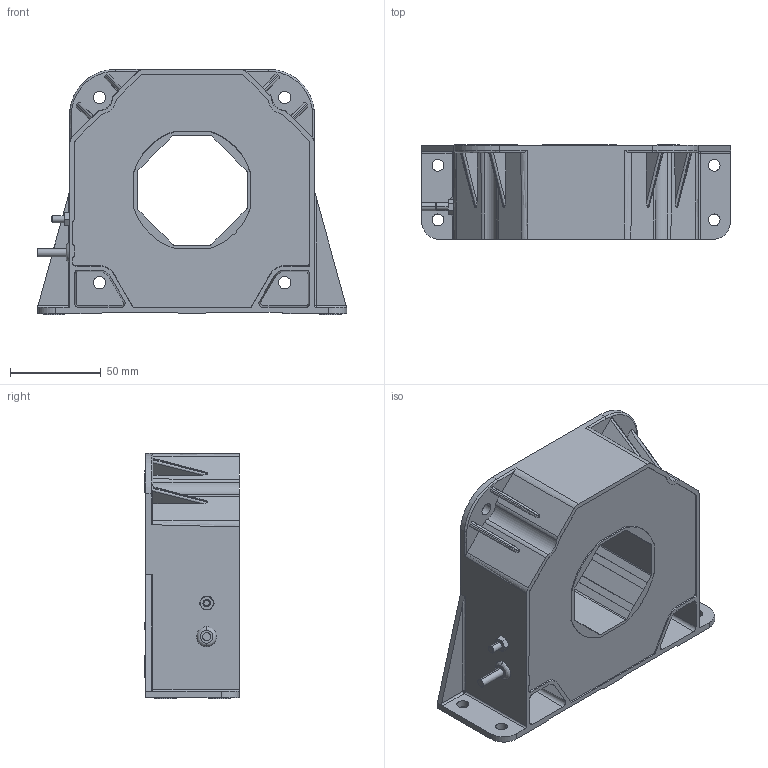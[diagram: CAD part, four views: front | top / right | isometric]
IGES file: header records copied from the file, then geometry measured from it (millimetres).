
Start section: Elysium IGES Interface
Global section: file name: \\Gva50\sd-data\Etudes\GVu\Serie_blackbox\LF 2005-S_SP8_blackbox\LF 2005-S_SP8_blackbox.igs; native system: SolidDesigner 16.00A  16-Aug-2008; preprocessor: CoCreate IGES_3D V2.2; author: Unknown; organization: Unknown; date: 20090223.095108; units: millimetre
Bounding box: 170.07 x 52 x 134.88 mm (x, y, z)
Volume: 677972.8 mm3; surface area: 109592.1 mm2
Topology: 6 solids, 6 shells, 1225 faces, 3390 edges, 2243 vertices
Faces by surface type: bspline 1225
